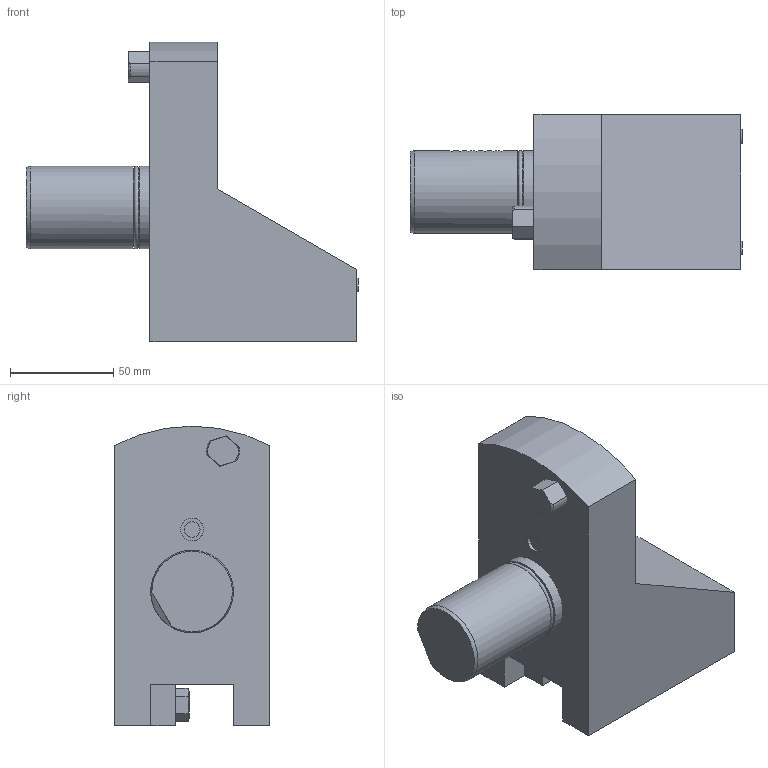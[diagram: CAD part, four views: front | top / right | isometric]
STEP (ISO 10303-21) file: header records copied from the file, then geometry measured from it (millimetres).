
FILE_DESCRIPTION(/* description */ (''),/* implementation_level */ '2;1');
FILE_NAME(/* name */ '117986',/* time_stamp */ '2020-12-22T06:57:43+01:00',/* author */ (''),/* organization */ (''),/* preprocessor_version */ 'ST-DEVELOPER v16.5',/* originating_system */ 'HiCAD 2017 2201.0 Build 268',/* authorisation */ '');
FILE_SCHEMA (('AUTOMOTIVE_DESIGN { 1 0 10303 214 1 1 1 1 }'));
Length unit declared in the file: millimetre
Products named in the file (2): Root; Teil
Assembly tree (1 placements, depth 2):
  Root
    Teil
Bounding box: 160.66 x 75.1 x 145 mm (x, y, z)
Volume: 638284.6 mm3; surface area: 65006.6 mm2
Topology: 1 solids, 3 shells, 283 faces, 711 edges, 472 vertices
Faces by surface type: plane 197, bspline 48, cylinder 23, cone 10, torus 3, sphere 2
Full cylindrical faces by diameter (mm): 6.6 x2, 7.65 x1, 10 x2, 11 x2, 11.01 x1, 11.1 x1, 36.5 x2, 40 x2
Entity records: 17601 total; most frequent: CARTESIAN_POINT 3943, PRESENTATION_STYLE_ASSIGNMENT 1475, OVER_RIDING_STYLED_ITEM 1474, COLOUR_RGB 1354, DRAUGHTING_PRE_DEFINED_CURVE_FONT 1352, CURVE_STYLE 1352, ORIENTED_EDGE 1352, DIRECTION 1085
